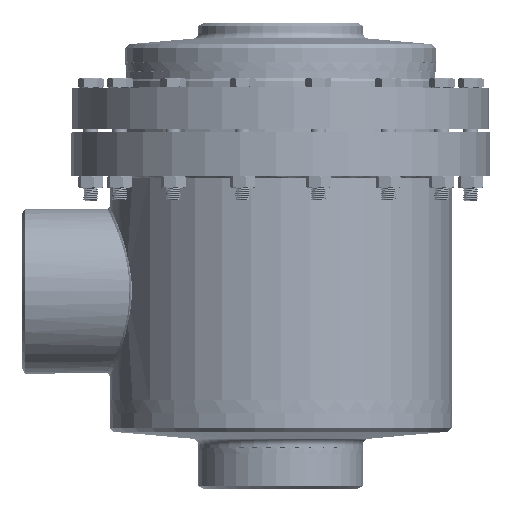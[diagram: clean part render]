
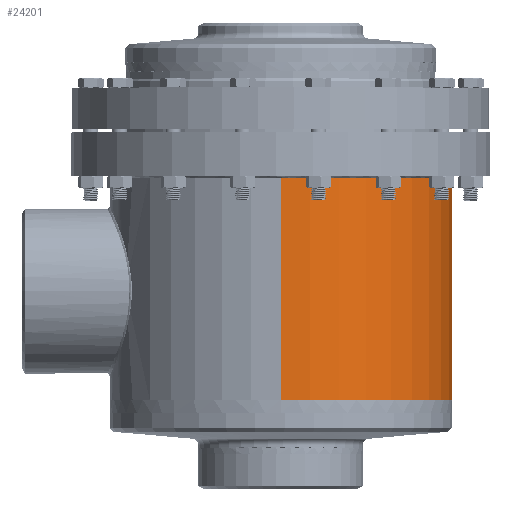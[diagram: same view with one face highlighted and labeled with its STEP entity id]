
A CAD part, top view. The second image highlights one B-rep face of the part: STEP entity #24201.
In plain terms, the highlighted cylindrical face has radius 227.5 mm (diameter 455 mm), a partial arc.
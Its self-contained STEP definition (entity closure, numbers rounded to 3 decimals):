
#340 = EDGE_CURVE ( 'NONE', #29771, #39711, #29895, .T. ) ;
#1076 = ORIENTED_EDGE ( 'NONE', *, *, #340, .T. ) ;
#35689 = EDGE_CURVE ( 'NONE', #21479, #37483, #27137, .T. ) ;
#36431 = ORIENTED_EDGE ( 'NONE', *, *, #35689, .F. ) ;
#37483 = VERTEX_POINT ( 'NONE', #28855 ) ;
#21479 = VERTEX_POINT ( 'NONE', #9267 ) ;
#37924 = EDGE_CURVE ( 'NONE', #37483, #39711, #29192, .T. ) ;
#21923 = EDGE_CURVE ( 'NONE', #21479, #29771, #9496, .T. ) ;
#38671 = ORIENTED_EDGE ( 'NONE', *, *, #37924, .F. ) ;
#22663 = ORIENTED_EDGE ( 'NONE', *, *, #21923, .T. ) ;
#23284 = CARTESIAN_POINT ( 'NONE',  ( 0., -15.94, -227.5 ) ) ;
#39711 = VERTEX_POINT ( 'NONE', #31564 ) ;
#23716 = EDGE_LOOP ( 'NONE', ( #22663, #1076, #38671, #36431 ) ) ;
#24201 = ADVANCED_FACE ( 'NONE', ( #12711 ), #12732, .T. ) ;
#9267 = CARTESIAN_POINT ( 'NONE',  ( 0., -15.94, 227.5 ) ) ;
#9496 = CIRCLE ( 'NONE', #9497, 227.5 ) ;
#9497 = AXIS2_PLACEMENT_3D ( 'NONE', #9498, #9521, #9522 ) ;
#9498 = CARTESIAN_POINT ( 'NONE',  ( 0., -15.94, 0. ) ) ;
#9521 = DIRECTION ( 'NONE',  ( 0., 1., 0. ) ) ;
#9522 = DIRECTION ( 'NONE',  ( 0., 0., 1. ) ) ;
#27137 = LINE ( 'NONE', #27138, #27139 ) ;
#27138 = CARTESIAN_POINT ( 'NONE',  ( 0., 45.442, 227.5 ) ) ;
#27139 = VECTOR ( 'NONE', #27140, 1000. ) ;
#27140 = DIRECTION ( 'NONE',  ( 0., 1., 0. ) ) ;
#28855 = CARTESIAN_POINT ( 'NONE',  ( 0., 283.573, 227.5 ) ) ;
#12711 = FACE_OUTER_BOUND ( 'NONE', #23716, .T. ) ;
#12732 = CYLINDRICAL_SURFACE ( 'NONE', #12733, 227.5 ) ;
#12733 = AXIS2_PLACEMENT_3D ( 'NONE', #12734, #12735, #12736 ) ;
#12734 = CARTESIAN_POINT ( 'NONE',  ( 0., 45.442, 0. ) ) ;
#12735 = DIRECTION ( 'NONE',  ( 0., 1., 0. ) ) ;
#12736 = DIRECTION ( 'NONE',  ( 0., 0., 1. ) ) ;
#29192 = CIRCLE ( 'NONE', #29193, 227.5 ) ;
#29193 = AXIS2_PLACEMENT_3D ( 'NONE', #29194, #29195, #29196 ) ;
#29194 = CARTESIAN_POINT ( 'NONE',  ( 0., 283.573, 0. ) ) ;
#29195 = DIRECTION ( 'NONE',  ( 0., 1., 0. ) ) ;
#29196 = DIRECTION ( 'NONE',  ( 0., 0., 1. ) ) ;
#29771 = VERTEX_POINT ( 'NONE', #23284 ) ;
#29895 = LINE ( 'NONE', #29896, #29897 ) ;
#29896 = CARTESIAN_POINT ( 'NONE',  ( 0., 45.442, -227.5 ) ) ;
#29897 = VECTOR ( 'NONE', #29898, 1000. ) ;
#29898 = DIRECTION ( 'NONE',  ( 0., 1., 0. ) ) ;
#31564 = CARTESIAN_POINT ( 'NONE',  ( 0., 283.573, -227.5 ) ) ;
